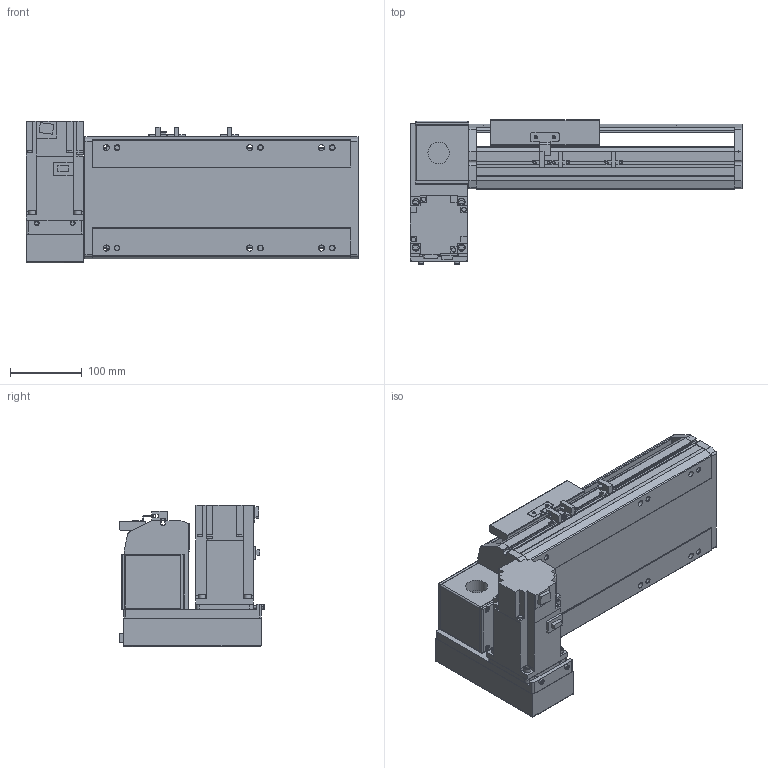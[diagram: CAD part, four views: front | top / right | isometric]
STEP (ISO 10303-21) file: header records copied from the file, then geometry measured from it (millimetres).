
FILE_DESCRIPTION(/* description */ ('STEP AP214'),/* implementation_level */ '2;1');
FILE_NAME(/* name */ 'PBS170-P40-S100-LD-T75-C1-N(0)',/* time_stamp */ '2022-06-07T09:50:02+02:00',/* author */ ('License CC BY-ND 4.0'),/* organization */ ('CADENAS'),/* preprocessor_version */ 'ST-DEVELOPER v18.102',/* originating_system */ 'PARTsolutions',/* authorisation */ ' ');
FILE_SCHEMA (('AUTOMOTIVE_DESIGN {1 0 10303 214 3 1 1}'));
Length unit declared in the file: millimetre
Products named in the file (7): PBS170-P40-S100-LD-T75-C1-N(0); PBS170_sensor; PBS170_plant; PBS170_sliser; T75-p1; PBS170T-LD_motors; PBS170-S100()_body
Assembly tree (8 placements, depth 2):
  PBS170-P40-S100-LD-T75-C1-N(0)
    PBS170_sensor  x3
    PBS170_plant
    PBS170_sliser
    T75-p1
    PBS170T-LD_motors
    PBS170-S100()_body
Bounding box: 463 x 201 x 197.3 mm (x, y, z)
Volume: 4576573.4 mm3; surface area: 666894.8 mm2
Topology: 8 solids, 8 shells, 1002 faces, 2675 edges, 1744 vertices
Faces by surface type: plane 657, cylinder 299, cone 36, sphere 8, torus 2
Full cylindrical faces by diameter (mm): 3.242 x4, 4 x2, 4.4 x4, 4.5 x6, 4.917 x4, 6 x9, 6.647 x14, 7 x2, 7.5 x4, 8 x8, 8.5 x6, 10 x4, 10.5 x6, 11 x2, 30 x2, 40 x1, 70 x1
Entity records: 28828 total; most frequent: CARTESIAN_POINT 5153, DIRECTION 4950, ORIENTED_EDGE 4728, EDGE_CURVE 2364, AXIS2_PLACEMENT_3D 1687, VERTEX_POINT 1610, LINE 1576, VECTOR 1576
